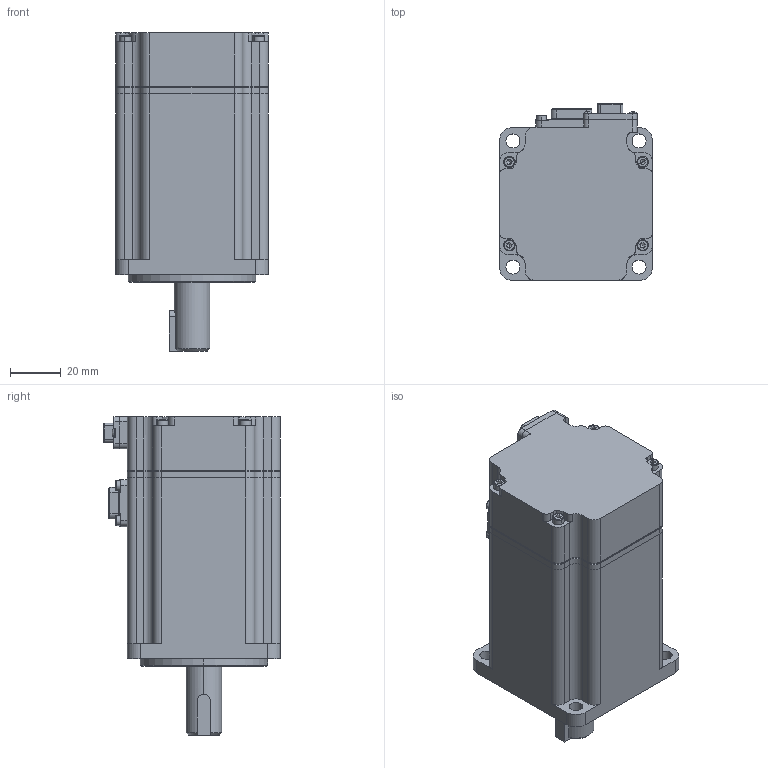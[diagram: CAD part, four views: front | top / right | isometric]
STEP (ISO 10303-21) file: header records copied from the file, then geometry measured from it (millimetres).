
FILE_DESCRIPTION (( 'STEP AP203' ), '1' );
FILE_NAME ('307090100SS(SMK60S-0040-30MAK-5LSA)-V1.0.STEP', '2023-04-28T02:32:06', ( '' ), ( '' ), 'SwSTEP 2.0', 'SolidWorks 2022', '' );
FILE_SCHEMA (( 'CONFIG_CONTROL_DESIGN' ));
Length unit declared in the file: millimetre
Products named in the file (10): 键; 动力底座sc-mc6p-ae2g; hexagon socket head cap screws gb_GB_FASTENER_SCREWS_HSHCS M2.5X12-N; 密封垫; 编码器罩-锐鹰分体光编; sc-mc7p-a82g-00-信号底座; hexagon socket head cap screws gb_GB_FASTENER_SCREWS_HSHCS M2X6-N; 10109020756 机壳-60L51(侧边开孔)-毛塑-V1.0; 307090100SS(SMK60S-0040-30MAK-5LSA)-V1.0; 后端盖
Assembly tree (15 placements, depth 2):
  307090100SS(SMK60S-0040-30MAK-5LSA)-V1.0
    10109020756 机壳-60L51(侧边开孔)-毛塑-V1.0
    后端盖
    编码器罩-锐鹰分体光编
    键
    sc-mc7p-a82g-00-信号底座
    动力底座sc-mc6p-ae2g
    hexagon socket head cap screws gb_GB_FASTENER_SCREWS_HSHCS M2X6-N  x4
    hexagon socket head cap screws gb_GB_FASTENER_SCREWS_HSHCS M2.5X12-N  x4
    密封垫
Bounding box: 60 x 69.3 x 125 mm (x, y, z)
Volume: 330808.3 mm3; surface area: 55682.4 mm2
Topology: 17 solids, 17 shells, 1823 faces, 4786 edges, 3050 vertices
Faces by surface type: plane 1023, cylinder 612, cone 92, torus 74, bspline 22
Entity records: 59116 total; most frequent: CARTESIAN_POINT 16173, ORIENTED_EDGE 8816, DIRECTION 8539, EDGE_CURVE 4408, AXIS2_PLACEMENT_3D 2885, VERTEX_POINT 2852, VECTOR 2769, LINE 2769
